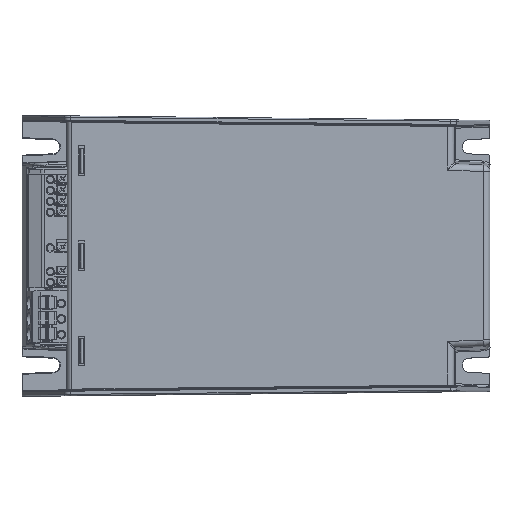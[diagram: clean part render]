
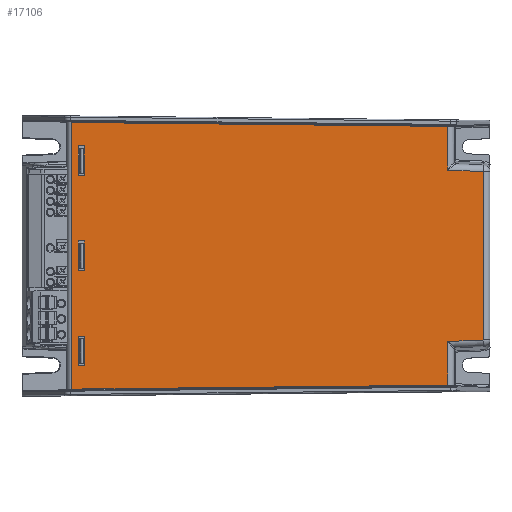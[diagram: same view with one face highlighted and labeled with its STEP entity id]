
A CAD part, top view. The second image highlights one B-rep face of the part: STEP entity #17106.
In plain terms, the highlighted planar face has unit normal (0.009, 0, 1).
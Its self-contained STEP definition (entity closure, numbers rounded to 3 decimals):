
#1275=FACE_BOUND($,#2552,.T.);
#1276=FACE_BOUND($,#2553,.T.);
#1277=FACE_BOUND($,#2554,.T.);
#1615=FACE_OUTER_BOUND($,#2551,.T.);
#2551=EDGE_LOOP($,(#13008,#13009,#13010,#13011,#13012,#13013,#13014,#13015));
#2552=EDGE_LOOP($,(#13016,#13017,#13018,#13019));
#2553=EDGE_LOOP($,(#13020,#13021,#13022,#13023));
#2554=EDGE_LOOP($,(#13024,#13025,#13026,#13027));
#4347=LINE($,#26640,#6104);
#4439=LINE($,#27804,#6196);
#4442=LINE($,#27902,#6199);
#4493=LINE($,#28922,#6250);
#4496=LINE($,#28987,#6253);
#4498=LINE($,#28991,#6255);
#4506=LINE($,#29011,#6263);
#4508=LINE($,#29014,#6265);
#4509=LINE($,#29018,#6266);
#4510=LINE($,#29020,#6267);
#4511=LINE($,#29022,#6268);
#4512=LINE($,#29023,#6269);
#4513=LINE($,#29026,#6270);
#4514=LINE($,#29028,#6271);
#4515=LINE($,#29030,#6272);
#4516=LINE($,#29031,#6273);
#4517=LINE($,#29034,#6274);
#4518=LINE($,#29036,#6275);
#4519=LINE($,#29038,#6276);
#4520=LINE($,#29039,#6277);
#6104=VECTOR($,#20143,85.465);
#6196=VECTOR($,#20493,13.991);
#6199=VECTOR($,#20518,120.43);
#6250=VECTOR($,#20721,11.511);
#6253=VECTOR($,#20740,11.511);
#6255=VECTOR($,#20746,120.43);
#6263=VECTOR($,#20776,53.961);
#6265=VECTOR($,#20780,13.991);
#6266=VECTOR($,#20783,2.);
#6267=VECTOR($,#20784,9.5);
#6268=VECTOR($,#20785,2.);
#6269=VECTOR($,#20786,9.5);
#6270=VECTOR($,#20787,2.);
#6271=VECTOR($,#20788,9.5);
#6272=VECTOR($,#20789,2.);
#6273=VECTOR($,#20790,9.5);
#6274=VECTOR($,#20791,2.);
#6275=VECTOR($,#20792,9.5);
#6276=VECTOR($,#20793,2.);
#6277=VECTOR($,#20794,9.5);
#7751=VERTEX_POINT($,#24726);
#7754=VERTEX_POINT($,#24734);
#8002=VERTEX_POINT($,#27801);
#8003=VERTEX_POINT($,#27803);
#8014=VERTEX_POINT($,#27901);
#8060=VERTEX_POINT($,#28890);
#8063=VERTEX_POINT($,#28921);
#8067=VERTEX_POINT($,#28985);
#8069=VERTEX_POINT($,#29016);
#8070=VERTEX_POINT($,#29017);
#8071=VERTEX_POINT($,#29019);
#8072=VERTEX_POINT($,#29021);
#8073=VERTEX_POINT($,#29024);
#8074=VERTEX_POINT($,#29025);
#8075=VERTEX_POINT($,#29027);
#8076=VERTEX_POINT($,#29029);
#8077=VERTEX_POINT($,#29032);
#8078=VERTEX_POINT($,#29033);
#8079=VERTEX_POINT($,#29035);
#8080=VERTEX_POINT($,#29037);
#9590=EDGE_CURVE($,#7754,#7751,#4347,.T.);
#9785=EDGE_CURVE($,#8002,#8003,#4439,.T.);
#9801=EDGE_CURVE($,#8014,#7754,#4442,.F.);
#9898=EDGE_CURVE($,#8060,#8063,#4493,.T.);
#9907=EDGE_CURVE($,#8067,#8002,#4496,.T.);
#9909=EDGE_CURVE($,#7751,#8003,#4498,.F.);
#9920=EDGE_CURVE($,#8063,#8067,#4506,.T.);
#9922=EDGE_CURVE($,#8014,#8060,#4508,.T.);
#9923=EDGE_CURVE($,#8069,#8070,#4509,.T.);
#9924=EDGE_CURVE($,#8070,#8071,#4510,.T.);
#9925=EDGE_CURVE($,#8071,#8072,#4511,.T.);
#9926=EDGE_CURVE($,#8072,#8069,#4512,.T.);
#9927=EDGE_CURVE($,#8073,#8074,#4513,.T.);
#9928=EDGE_CURVE($,#8074,#8075,#4514,.T.);
#9929=EDGE_CURVE($,#8075,#8076,#4515,.T.);
#9930=EDGE_CURVE($,#8076,#8073,#4516,.T.);
#9931=EDGE_CURVE($,#8077,#8078,#4517,.T.);
#9932=EDGE_CURVE($,#8078,#8079,#4518,.T.);
#9933=EDGE_CURVE($,#8079,#8080,#4519,.T.);
#9934=EDGE_CURVE($,#8080,#8077,#4520,.T.);
#13008=ORIENTED_EDGE($,*,*,#9785,.F.);
#13009=ORIENTED_EDGE($,*,*,#9907,.F.);
#13010=ORIENTED_EDGE($,*,*,#9920,.F.);
#13011=ORIENTED_EDGE($,*,*,#9898,.F.);
#13012=ORIENTED_EDGE($,*,*,#9922,.F.);
#13013=ORIENTED_EDGE($,*,*,#9801,.T.);
#13014=ORIENTED_EDGE($,*,*,#9590,.T.);
#13015=ORIENTED_EDGE($,*,*,#9909,.T.);
#13016=ORIENTED_EDGE($,*,*,#9923,.T.);
#13017=ORIENTED_EDGE($,*,*,#9924,.T.);
#13018=ORIENTED_EDGE($,*,*,#9925,.T.);
#13019=ORIENTED_EDGE($,*,*,#9926,.T.);
#13020=ORIENTED_EDGE($,*,*,#9927,.T.);
#13021=ORIENTED_EDGE($,*,*,#9928,.T.);
#13022=ORIENTED_EDGE($,*,*,#9929,.T.);
#13023=ORIENTED_EDGE($,*,*,#9930,.T.);
#13024=ORIENTED_EDGE($,*,*,#9931,.T.);
#13025=ORIENTED_EDGE($,*,*,#9932,.T.);
#13026=ORIENTED_EDGE($,*,*,#9933,.T.);
#13027=ORIENTED_EDGE($,*,*,#9934,.T.);
#16377=PLANE($,#18237);
#17106=ADVANCED_FACE($,(#1615,#1275,#1276,#1277),#16377,.T.);
#18237=AXIS2_PLACEMENT_3D($,#29015,#20781,#20782);
#20143=DIRECTION($,(0.,-1.,0.));
#20493=DIRECTION($,(0.,-1.,0.));
#20518=DIRECTION($,(1.,-0.01,-0.009));
#20721=DIRECTION($,(0.999,-0.043,-0.009));
#20740=DIRECTION($,(-0.999,-0.043,0.009));
#20746=DIRECTION($,(-1.,-0.01,0.009));
#20776=DIRECTION($,(0.,-1.,0.));
#20780=DIRECTION($,(0.,-1.,0.));
#20781=DIRECTION('center_axis',(0.009,0.,1.));
#20782=DIRECTION('ref_axis',(0.,-1.,0.));
#20783=DIRECTION($,(1.,0.,-0.009));
#20784=DIRECTION($,(0.,-1.,0.));
#20785=DIRECTION($,(-1.,0.,0.009));
#20786=DIRECTION($,(0.,1.,0.));
#20787=DIRECTION($,(1.,0.,-0.009));
#20788=DIRECTION($,(0.,-1.,0.));
#20789=DIRECTION($,(-1.,0.,0.009));
#20790=DIRECTION($,(0.,1.,0.));
#20791=DIRECTION($,(1.,0.,-0.009));
#20792=DIRECTION($,(0.,-1.,0.));
#20793=DIRECTION($,(-1.,0.,0.009));
#20794=DIRECTION($,(0.,1.,0.));
#24726=CARTESIAN_POINT('',(12.9,-42.732,31.8));
#24734=CARTESIAN_POINT('',(12.9,42.732,31.8));
#26640=CARTESIAN_POINT($,(12.9,42.732,31.8));
#27801=CARTESIAN_POINT('',(133.318,-27.48,30.749));
#27803=CARTESIAN_POINT('',(133.318,-41.471,30.749));
#27804=CARTESIAN_POINT($,(133.318,-27.48,30.749));
#27901=CARTESIAN_POINT('',(133.318,41.471,30.749));
#27902=CARTESIAN_POINT($,(12.9,42.732,31.8));
#28890=CARTESIAN_POINT('',(133.318,27.48,30.749));
#28921=CARTESIAN_POINT('',(144.818,26.981,30.649));
#28922=CARTESIAN_POINT($,(133.318,27.48,30.749));
#28985=CARTESIAN_POINT('',(144.818,-26.981,30.649));
#28987=CARTESIAN_POINT($,(144.818,-26.981,30.649));
#28991=CARTESIAN_POINT($,(133.318,-41.471,30.749));
#29011=CARTESIAN_POINT($,(144.818,26.981,30.649));
#29014=CARTESIAN_POINT($,(133.318,41.471,30.749));
#29015=CARTESIAN_POINT('Origin',(71.098,0.,31.292));
#29016=CARTESIAN_POINT('',(14.9,35.25,31.783));
#29017=CARTESIAN_POINT('',(16.9,35.25,31.765));
#29018=CARTESIAN_POINT($,(14.9,35.25,31.783));
#29019=CARTESIAN_POINT('',(16.9,25.75,31.765));
#29020=CARTESIAN_POINT($,(16.9,35.25,31.765));
#29021=CARTESIAN_POINT('',(14.9,25.75,31.783));
#29022=CARTESIAN_POINT($,(16.9,25.75,31.765));
#29023=CARTESIAN_POINT($,(14.9,25.75,31.783));
#29024=CARTESIAN_POINT('',(14.9,-25.75,31.783));
#29025=CARTESIAN_POINT('',(16.9,-25.75,31.765));
#29026=CARTESIAN_POINT($,(14.9,-25.75,31.783));
#29027=CARTESIAN_POINT('',(16.9,-35.25,31.765));
#29028=CARTESIAN_POINT($,(16.9,-25.75,31.765));
#29029=CARTESIAN_POINT('',(14.9,-35.25,31.783));
#29030=CARTESIAN_POINT($,(16.9,-35.25,31.765));
#29031=CARTESIAN_POINT($,(14.9,-35.25,31.783));
#29032=CARTESIAN_POINT('',(14.9,4.75,31.783));
#29033=CARTESIAN_POINT('',(16.9,4.75,31.765));
#29034=CARTESIAN_POINT($,(14.9,4.75,31.783));
#29035=CARTESIAN_POINT('',(16.9,-4.75,31.765));
#29036=CARTESIAN_POINT($,(16.9,4.75,31.765));
#29037=CARTESIAN_POINT('',(14.9,-4.75,31.783));
#29038=CARTESIAN_POINT($,(16.9,-4.75,31.765));
#29039=CARTESIAN_POINT($,(14.9,-4.75,31.783));
